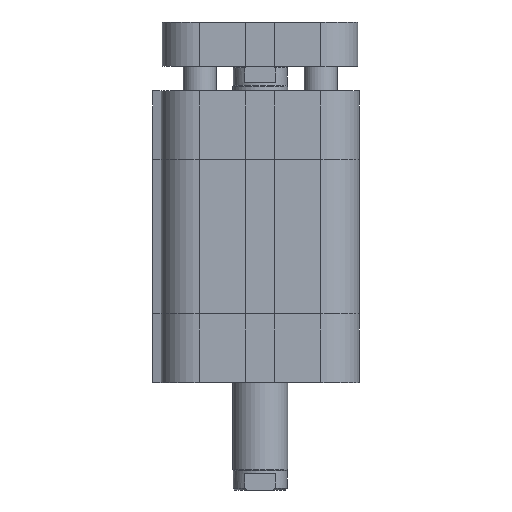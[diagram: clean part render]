
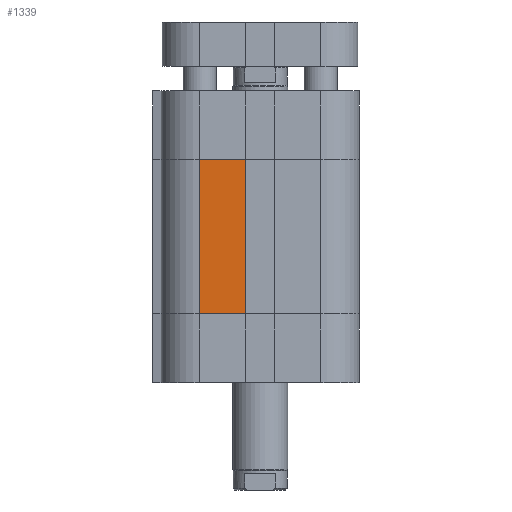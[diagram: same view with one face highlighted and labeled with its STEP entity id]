
A CAD part, left-side view. The second image highlights one B-rep face of the part: STEP entity #1339.
In plain terms, the highlighted planar face has unit normal (-1, 0, 0).
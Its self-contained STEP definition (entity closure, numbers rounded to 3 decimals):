
#1250=CARTESIAN_POINT('',(-18.,11.0,12.5));
#1251=VERTEX_POINT('',#1250);
#1259=CARTESIAN_POINT('',(-18.,11.0,40.5));
#1260=VERTEX_POINT('',#1259);
#1261=CARTESIAN_POINT('',(-18.,11.0,12.5));
#1262=DIRECTION('',(0.0,0.0,1.0));
#1263=VECTOR('',#1262,28.);
#1264=LINE('',#1261,#1263);
#1265=EDGE_CURVE('',#1251,#1260,#1264,.T.);
#1309=CARTESIAN_POINT('',(-18.0,2.6,0.0));
#1310=DIRECTION('',(-1.0,0.0,0.0));
#1311=DIRECTION('',(0.0,0.0,1.0));
#1312=AXIS2_PLACEMENT_3D('',#1309,#1310,#1311);
#1313=PLANE('',#1312);
#1314=CARTESIAN_POINT('',(-18.0,2.6,12.5));
#1315=VERTEX_POINT('',#1314);
#1316=CARTESIAN_POINT('',(-18.,11.0,12.5));
#1317=DIRECTION('',(0.0,-1.0,0.0));
#1318=VECTOR('',#1317,8.4);
#1319=LINE('',#1316,#1318);
#1320=EDGE_CURVE('',#1251,#1315,#1319,.T.);
#1321=ORIENTED_EDGE('',*,*,#1320,.T.);
#1322=CARTESIAN_POINT('',(-18.0,2.6,40.5));
#1323=VERTEX_POINT('',#1322);
#1324=CARTESIAN_POINT('',(-18.0,2.6,12.5));
#1325=DIRECTION('',(0.0,0.0,1.0));
#1326=VECTOR('',#1325,28.);
#1327=LINE('',#1324,#1326);
#1328=EDGE_CURVE('',#1315,#1323,#1327,.T.);
#1329=ORIENTED_EDGE('',*,*,#1328,.T.);
#1330=CARTESIAN_POINT('',(-18.,11.0,40.5));
#1331=DIRECTION('',(0.0,-1.0,0.0));
#1332=VECTOR('',#1331,8.4);
#1333=LINE('',#1330,#1332);
#1334=EDGE_CURVE('',#1260,#1323,#1333,.T.);
#1335=ORIENTED_EDGE('',*,*,#1334,.F.);
#1336=ORIENTED_EDGE('',*,*,#1265,.F.);
#1337=EDGE_LOOP('',(#1321,#1329,#1335,#1336));
#1338=FACE_OUTER_BOUND('',#1337,.T.);
#1339=ADVANCED_FACE('',(#1338),#1313,.T.);
